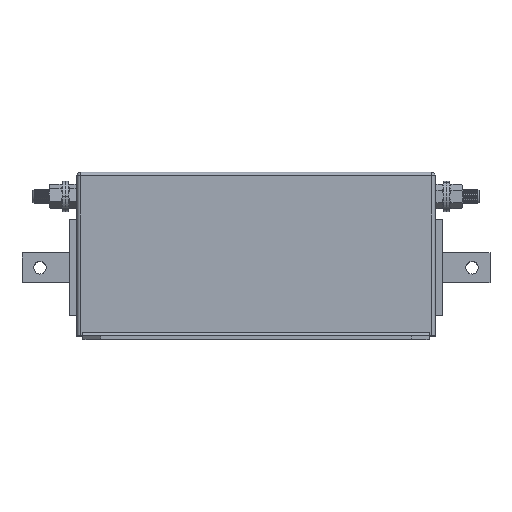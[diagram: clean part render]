
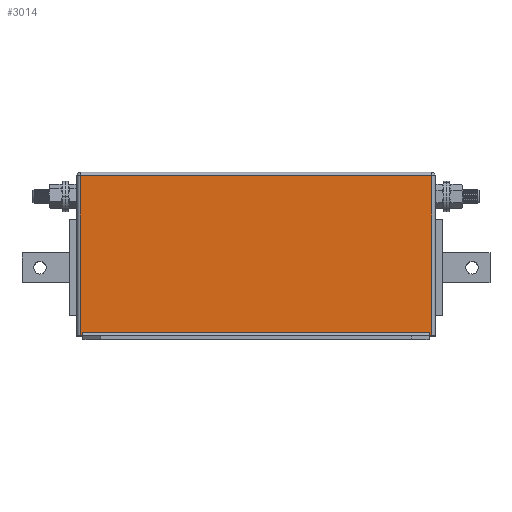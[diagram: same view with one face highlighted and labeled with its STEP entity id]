
A CAD part, top view. The second image highlights one B-rep face of the part: STEP entity #3014.
In plain terms, the highlighted planar face has unit normal (0, 0, 1).
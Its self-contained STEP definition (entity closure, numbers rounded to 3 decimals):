
#2865 = VERTEX_POINT ( 'NONE', #7022 ) ;
#2871 = EDGE_LOOP ( 'NONE', ( #2944, #3017, #3001, #3003, #2936, #2939, #2983, #2984 ) ) ;
#2892 = EDGE_CURVE ( 'NONE', #2946, #2893, #7253, .T. ) ;
#2893 = VERTEX_POINT ( 'NONE', #7249 ) ;
#2921 = VERTEX_POINT ( 'NONE', #7385 ) ;
#2935 = VERTEX_POINT ( 'NONE', #7439 ) ;
#2936 = ORIENTED_EDGE ( 'NONE', *, *, #2937, .T. ) ;
#2937 = EDGE_CURVE ( 'NONE', #2935, #2938, #7438, .T. ) ;
#2938 = VERTEX_POINT ( 'NONE', #7434 ) ;
#2939 = ORIENTED_EDGE ( 'NONE', *, *, #2940, .T. ) ;
#2940 = EDGE_CURVE ( 'NONE', #2938, #2865, #7433, .T. ) ;
#2944 = ORIENTED_EDGE ( 'NONE', *, *, #2945, .T. ) ;
#2945 = EDGE_CURVE ( 'NONE', #3015, #2946, #7423, .T. ) ;
#2946 = VERTEX_POINT ( 'NONE', #7419 ) ;
#2983 = ORIENTED_EDGE ( 'NONE', *, *, #2985, .T. ) ;
#2984 = ORIENTED_EDGE ( 'NONE', *, *, #2996, .T. ) ;
#2985 = EDGE_CURVE ( 'NONE', #2865, #2921, #7311, .T. ) ;
#2996 = EDGE_CURVE ( 'NONE', #2921, #3015, #7287, .T. ) ;
#3001 = ORIENTED_EDGE ( 'NONE', *, *, #3002, .T. ) ;
#3002 = EDGE_CURVE ( 'NONE', #2893, #3005, #7272, .T. ) ;
#3003 = ORIENTED_EDGE ( 'NONE', *, *, #3004, .T. ) ;
#3004 = EDGE_CURVE ( 'NONE', #3005, #2935, #7268, .T. ) ;
#3005 = VERTEX_POINT ( 'NONE', #7264 ) ;
#3014 = ADVANCED_FACE ( 'NONE', ( #7216 ), #7215, .F. ) ;
#3015 = VERTEX_POINT ( 'NONE', #7210 ) ;
#3017 = ORIENTED_EDGE ( 'NONE', *, *, #2892, .T. ) ;
#7022 = CARTESIAN_POINT ( 'NONE',  ( 3., 0., 0. ) ) ;
#7210 = CARTESIAN_POINT ( 'NONE',  ( 5., 3., 0. ) ) ;
#7211 = DIRECTION ( 'NONE',  ( -1., 0., 0. ) ) ;
#7212 = DIRECTION ( 'NONE',  ( 0., 0., -1. ) ) ;
#7213 = CARTESIAN_POINT ( 'NONE',  ( 0., 137., 0. ) ) ;
#7214 = AXIS2_PLACEMENT_3D ( 'NONE', #7213, #7212, #7211 ) ;
#7215 = PLANE ( 'NONE',  #7214 ) ;
#7216 = FACE_OUTER_BOUND ( 'NONE', #2871, .T. ) ;
#7249 = CARTESIAN_POINT ( 'NONE',  ( 295., 0., 0. ) ) ;
#7250 = DIRECTION ( 'NONE',  ( 0., -1., 0. ) ) ;
#7251 = VECTOR ( 'NONE', #7250, 1000. ) ;
#7252 = CARTESIAN_POINT ( 'NONE',  ( 295., -3., 0. ) ) ;
#7253 = LINE ( 'NONE', #7252, #7251 ) ;
#7264 = CARTESIAN_POINT ( 'NONE',  ( 297., 0., 0. ) ) ;
#7265 = DIRECTION ( 'NONE',  ( 0., 1., 0. ) ) ;
#7266 = VECTOR ( 'NONE', #7265, 1000. ) ;
#7267 = CARTESIAN_POINT ( 'NONE',  ( 297., 137., 0. ) ) ;
#7268 = LINE ( 'NONE', #7267, #7266 ) ;
#7269 = DIRECTION ( 'NONE',  ( 1., 0., 0. ) ) ;
#7270 = VECTOR ( 'NONE', #7269, 1000. ) ;
#7271 = CARTESIAN_POINT ( 'NONE',  ( 0., 0., 0. ) ) ;
#7272 = LINE ( 'NONE', #7271, #7270 ) ;
#7279 = DIRECTION ( 'NONE',  ( 0., 1., 0. ) ) ;
#7280 = VECTOR ( 'NONE', #7279, 1000. ) ;
#7281 = CARTESIAN_POINT ( 'NONE',  ( 5., -3., 0. ) ) ;
#7287 = LINE ( 'NONE', #7281, #7280 ) ;
#7304 = DIRECTION ( 'NONE',  ( 1., 0., 0. ) ) ;
#7305 = VECTOR ( 'NONE', #7304, 1000. ) ;
#7306 = CARTESIAN_POINT ( 'NONE',  ( 0., 0., 0. ) ) ;
#7311 = LINE ( 'NONE', #7306, #7305 ) ;
#7385 = CARTESIAN_POINT ( 'NONE',  ( 5., 0., 0. ) ) ;
#7419 = CARTESIAN_POINT ( 'NONE',  ( 295., 3., 0. ) ) ;
#7420 = DIRECTION ( 'NONE',  ( 1., 0., 0. ) ) ;
#7421 = VECTOR ( 'NONE', #7420, 1000. ) ;
#7422 = CARTESIAN_POINT ( 'NONE',  ( 295., 3., 0. ) ) ;
#7423 = LINE ( 'NONE', #7422, #7421 ) ;
#7430 = DIRECTION ( 'NONE',  ( 0., -1., 0. ) ) ;
#7431 = VECTOR ( 'NONE', #7430, 1000. ) ;
#7432 = CARTESIAN_POINT ( 'NONE',  ( 3., 137., 0. ) ) ;
#7433 = LINE ( 'NONE', #7432, #7431 ) ;
#7434 = CARTESIAN_POINT ( 'NONE',  ( 3., 134., 0. ) ) ;
#7435 = DIRECTION ( 'NONE',  ( -1., 0., 0. ) ) ;
#7436 = VECTOR ( 'NONE', #7435, 1000. ) ;
#7437 = CARTESIAN_POINT ( 'NONE',  ( 0., 134., 0. ) ) ;
#7438 = LINE ( 'NONE', #7437, #7436 ) ;
#7439 = CARTESIAN_POINT ( 'NONE',  ( 297., 134., 0. ) ) ;
